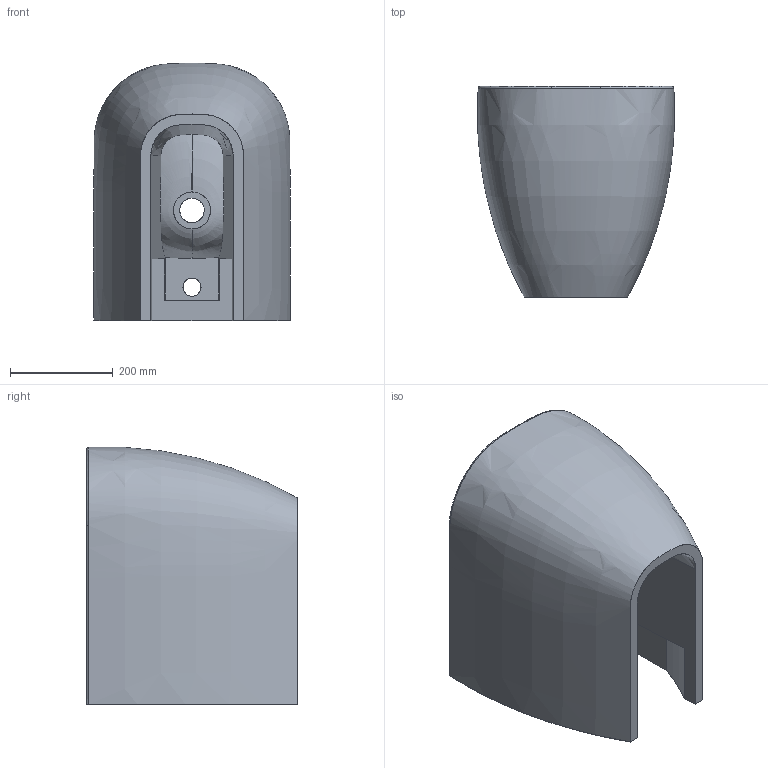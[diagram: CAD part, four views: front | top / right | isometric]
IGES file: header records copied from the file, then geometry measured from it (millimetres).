
Start section: SolidWorks IGES file using NURBS representation for surfaces
Global section: file name: C:\Users\User\Desktop\forever\BIDET FOREVER 50 A TERRA\BIDET FOREVER 50 A TERRA.IGS; native system: SolidWorks 2016; preprocessor: SolidWorks 2016; author: User; date: 200730.120507; units: millimetre
Bounding box: 383.37 x 410 x 500.15 mm (x, y, z)
Surface area: 1187127.8 mm2 (no closed solid volume)
Topology: 0 solids, 0 shells, 54 faces, 1386 edges, 1386 vertices
Faces by surface type: bspline 54
